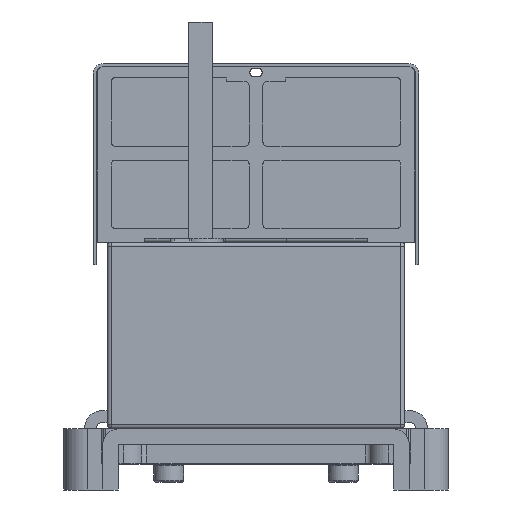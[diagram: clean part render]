
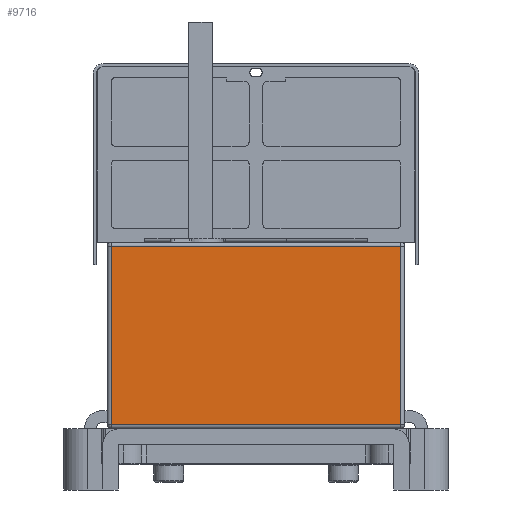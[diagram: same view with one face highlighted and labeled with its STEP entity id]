
A CAD part, left-side view. The second image highlights one B-rep face of the part: STEP entity #9716.
In plain terms, the highlighted planar face has unit normal (-1, 0, 0).
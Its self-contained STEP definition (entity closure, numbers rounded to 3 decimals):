
#2956=LINE('',#51431,#5776);
#2961=LINE('',#51452,#5781);
#2964=LINE('',#51475,#5784);
#2971=LINE('',#51485,#5791);
#5776=VECTOR('',#39716,1.);
#5781=VECTOR('',#39741,1.);
#5784=VECTOR('',#39770,1.);
#5791=VECTOR('',#39783,1.);
#6743=PLANE('',#31786);
#8144=FACE_OUTER_BOUND('',#12616,.T.);
#9716=ADVANCED_FACE('',(#8144),#6743,.F.);
#12616=EDGE_LOOP('',(#20172,#20173,#20174,#20175));
#20172=ORIENTED_EDGE('',*,*,#27805,.T.);
#20173=ORIENTED_EDGE('',*,*,#27787,.T.);
#20174=ORIENTED_EDGE('',*,*,#27798,.T.);
#20175=ORIENTED_EDGE('',*,*,#27776,.T.);
#23761=VERTEX_POINT('',#51417);
#23765=VERTEX_POINT('',#51428);
#23770=VERTEX_POINT('',#51445);
#23771=VERTEX_POINT('',#51449);
#27776=EDGE_CURVE('',#23765,#23761,#2956,.T.);
#27787=EDGE_CURVE('',#23771,#23770,#2961,.T.);
#27798=EDGE_CURVE('',#23770,#23765,#2964,.T.);
#27805=EDGE_CURVE('',#23761,#23771,#2971,.T.);
#31786=AXIS2_PLACEMENT_3D('',#51538,#39828,#39829);
#39716=DIRECTION('',(0.,1.,0.));
#39741=DIRECTION('',(0.,-1.,0.));
#39770=DIRECTION('',(0.,0.,1.));
#39783=DIRECTION('',(0.,0.,-1.));
#39828=DIRECTION('',(1.,0.,0.));
#39829=DIRECTION('',(0.,1.,0.));
#51417=CARTESIAN_POINT('',(-150.,73.,92.));
#51428=CARTESIAN_POINT('',(-150.,-73.,92.));
#51431=CARTESIAN_POINT('',(-150.,73.,92.));
#51445=CARTESIAN_POINT('',(-150.,-73.,2.));
#51449=CARTESIAN_POINT('',(-150.,73.,2.));
#51452=CARTESIAN_POINT('',(-150.,75.,2.));
#51475=CARTESIAN_POINT('',(-150.,-73.,94.));
#51485=CARTESIAN_POINT('',(-150.,73.,94.));
#51538=CARTESIAN_POINT('',(-150.,75.,94.));
